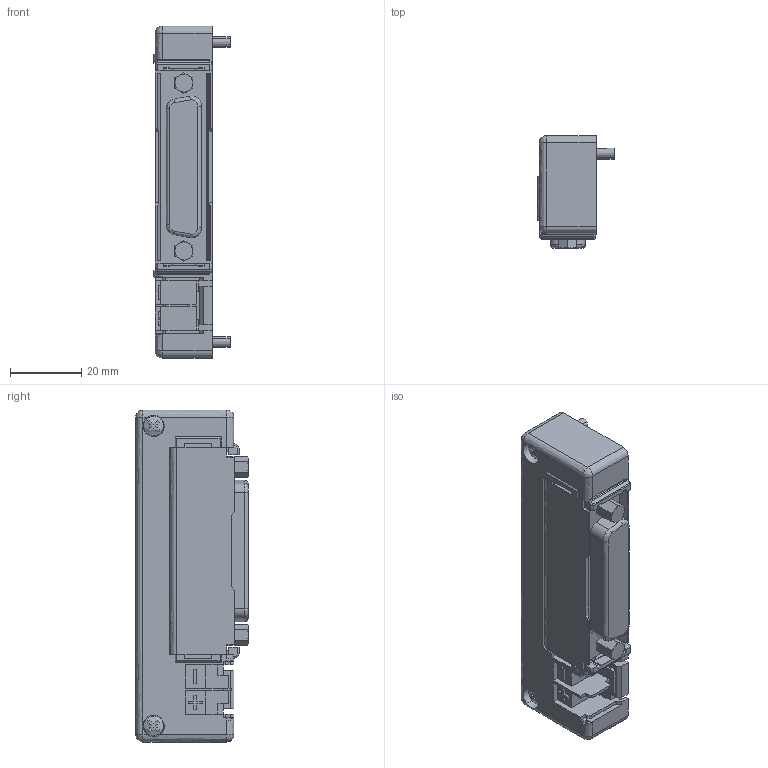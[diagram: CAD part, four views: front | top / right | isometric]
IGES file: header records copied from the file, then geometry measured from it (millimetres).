
Start section: ------------------------------------------------------------------------
Global section: file name: D:\ICADMX\tmp\trans3d_spg\CVICAD46.2900.FZX-D2x0_31082.igs; native system: spGate; preprocessor: ver12.6.6; author: Unknown; organization: Unknown; date: 200902.143720; units: millimetre
Bounding box: 21.4 x 31.5 x 93 mm (x, y, z)
Volume: 34571.2 mm3; surface area: 14506.7 mm2
Topology: 2 solids, 2 shells, 397 faces, 1136 edges, 728 vertices
Faces by surface type: bspline 397
